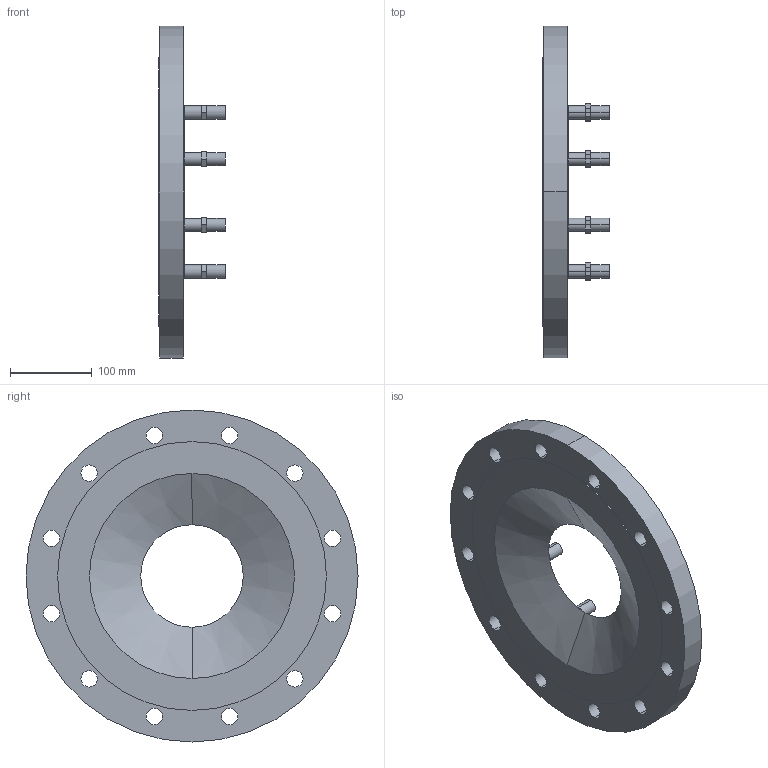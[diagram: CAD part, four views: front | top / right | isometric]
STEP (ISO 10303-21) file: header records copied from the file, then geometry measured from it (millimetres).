
FILE_DESCRIPTION(('STEP AP214'),'1');
FILE_NAME('S:/EK/USER/CAT6/3DHomepage_27-04-2012/VDI-Rohrsysteme_und_Stahlrohre/0802_(8110)/0802_PN16_DN250_DN125.STP','2013-01-25T07:59:04',(' '),(' '),'Spatial InterOp 3D',' ',' ');
FILE_SCHEMA(('automotive_design'));
Length unit declared in the file: millimetre
Products named in the file (18): 3D-Objekt
Bounding box: 81 x 405 x 405 mm (x, y, z)
Volume: 2947172.4 mm3; surface area: 381014.1 mm2
Topology: 18 solids, 18 shells, 135 faces, 294 edges, 196 vertices
Faces by surface type: plane 85, cylinder 48, cone 2
Entity records: 5260 total; most frequent: DIRECTION 700, CARTESIAN_POINT 643, ORIENTED_EDGE 588, EDGE_CURVE 294, AXIS2_PLACEMENT_3D 253, VERTEX_POINT 196, LINE 194, VECTOR 194
